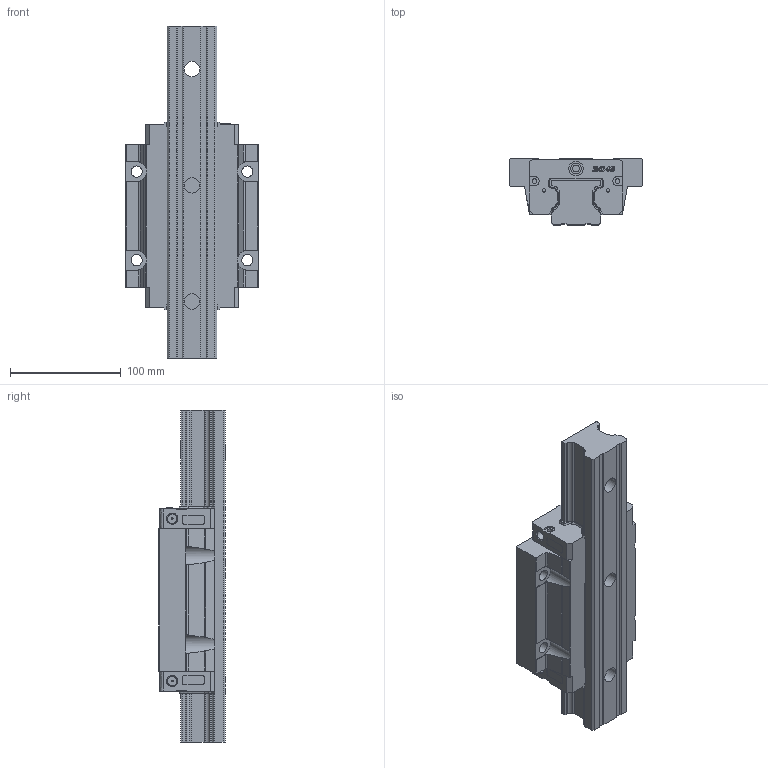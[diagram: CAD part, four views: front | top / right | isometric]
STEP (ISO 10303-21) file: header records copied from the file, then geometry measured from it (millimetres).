
FILE_DESCRIPTION(/* description */ (''),/* implementation_level */ '2;1');
FILE_NAME(/* name */ 'SGH45AL.stp',/* time_stamp */ '2021-05-27T16:20:45+08:00',/* author */ (''),/* organization */ (''),/* preprocessor_version */ 'ST-DEVELOPER v15',/* originating_system */ 'SIEMENS PLM Software NX 8.5',/* authorisation */ '');
FILE_SCHEMA (('CONFIG_CONTROL_DESIGN'));
Length unit declared in the file: millimetre
Products named in the file (1): SGH45AL
Bounding box: 120 x 60 x 300 mm (x, y, z)
Volume: 1051830.8 mm3; surface area: 144159.8 mm2
Topology: 2 solids, 6 shells, 548 faces, 1502 edges, 1005 vertices
Faces by surface type: plane 308, cylinder 101, extrusion 72, cone 59, bspline 4, torus 4
Full cylindrical faces by diameter (mm): 1.5 x4, 3.1 x8, 4.3 x4, 6 x2, 8.5 x4, 9.6 x2, 10.2 x4, 13 x2, 14 x3, 20 x3
Entity records: 18470 total; most frequent: CARTESIAN_POINT 5087, ORIENTED_EDGE 2850, DIRECTION 2468, EDGE_CURVE 1425, VERTEX_POINT 979, VECTOR 888, LINE 816, AXIS2_PLACEMENT_3D 790
